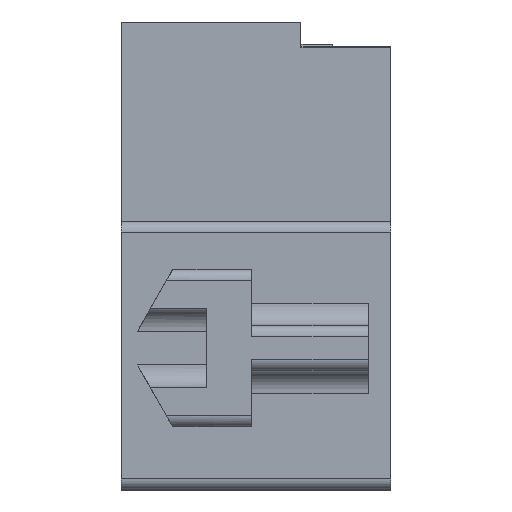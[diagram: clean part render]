
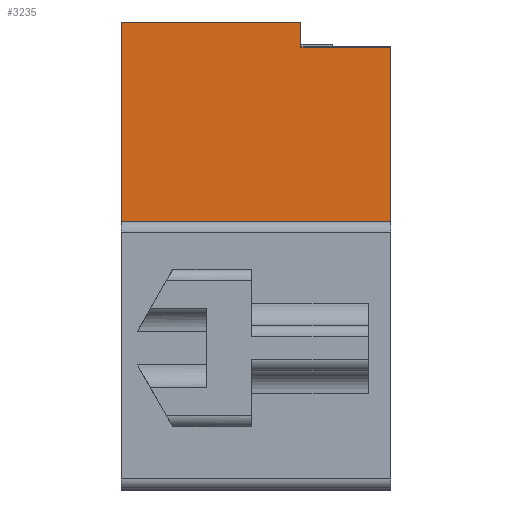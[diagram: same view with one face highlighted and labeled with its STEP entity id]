
A CAD part, left-side view. The second image highlights one B-rep face of the part: STEP entity #3235.
In plain terms, the highlighted planar face has unit normal (-0.314, 0, 0.95).
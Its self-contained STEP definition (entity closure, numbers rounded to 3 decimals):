
#17 = ORIENTED_EDGE ( 'NONE', *, *, #2132, .F. ) ;
#20 = EDGE_CURVE ( 'NONE', #2819, #1436, #4389, .T. ) ;
#269 = DIRECTION ( 'NONE',  ( -0.95, 0., -0.314 ) ) ;
#296 = VERTEX_POINT ( 'NONE', #1491 ) ;
#536 = EDGE_CURVE ( 'NONE', #296, #978, #543, .T. ) ;
#543 = LINE ( 'NONE', #4174, #2897 ) ;
#571 = LINE ( 'NONE', #1297, #4033 ) ;
#680 = CARTESIAN_POINT ( 'NONE',  ( -5., 12., 0. ) ) ;
#770 = LINE ( 'NONE', #921, #2805 ) ;
#921 = CARTESIAN_POINT ( 'NONE',  ( -5., 12., 0. ) ) ;
#978 = VERTEX_POINT ( 'NONE', #4374 ) ;
#1297 = CARTESIAN_POINT ( 'NONE',  ( -8.407, 4., -1.125 ) ) ;
#1311 = VECTOR ( 'NONE', #1920, 1000. ) ;
#1346 = EDGE_CURVE ( 'NONE', #2759, #1436, #2623, .T. ) ;
#1436 = VERTEX_POINT ( 'NONE', #3830 ) ;
#1491 = CARTESIAN_POINT ( 'NONE',  ( -5.076, 4., -0.025 ) ) ;
#1509 = EDGE_LOOP ( 'NONE', ( #17, #3487, #4141, #4010, #3787, #3065 ) ) ;
#1596 = DIRECTION ( 'NONE',  ( 0., -1., 0. ) ) ;
#1719 = DIRECTION ( 'NONE',  ( 0.95, 0., 0.314 ) ) ;
#1777 = FACE_OUTER_BOUND ( 'NONE', #1509, .T. ) ;
#1920 = DIRECTION ( 'NONE',  ( -0.95, 0., -0.314 ) ) ;
#1995 = CARTESIAN_POINT ( 'NONE',  ( -31.907, 12., -8.887 ) ) ;
#2132 = EDGE_CURVE ( 'NONE', #296, #2831, #4040, .T. ) ;
#2388 = DIRECTION ( 'NONE',  ( -0.314, 0., 0.95 ) ) ;
#2603 = EDGE_CURVE ( 'NONE', #2759, #2831, #571, .T. ) ;
#2619 = DIRECTION ( 'NONE',  ( -0.95, 0., -0.314 ) ) ;
#2623 = LINE ( 'NONE', #4429, #2996 ) ;
#2759 = VERTEX_POINT ( 'NONE', #3144 ) ;
#2762 = DIRECTION ( 'NONE',  ( 0., 1., 0. ) ) ;
#2805 = VECTOR ( 'NONE', #2619, 1000. ) ;
#2819 = VERTEX_POINT ( 'NONE', #3834 ) ;
#2831 = VERTEX_POINT ( 'NONE', #3852 ) ;
#2897 = VECTOR ( 'NONE', #2762, 1000. ) ;
#2996 = VECTOR ( 'NONE', #269, 1000. ) ;
#3065 = ORIENTED_EDGE ( 'NONE', *, *, #2603, .T. ) ;
#3144 = CARTESIAN_POINT ( 'NONE',  ( -8.407, 0., -1.125 ) ) ;
#3235 = ADVANCED_FACE ( 'NONE', ( #1777 ), #3814, .T. ) ;
#3295 = CARTESIAN_POINT ( 'NONE',  ( -5., 4., 0. ) ) ;
#3487 = ORIENTED_EDGE ( 'NONE', *, *, #536, .T. ) ;
#3787 = ORIENTED_EDGE ( 'NONE', *, *, #1346, .F. ) ;
#3814 = PLANE ( 'NONE',  #4325 ) ;
#3830 = CARTESIAN_POINT ( 'NONE',  ( -31.907, 0., -8.887 ) ) ;
#3834 = CARTESIAN_POINT ( 'NONE',  ( -31.907, 12., -8.887 ) ) ;
#3852 = CARTESIAN_POINT ( 'NONE',  ( -8.407, 4., -1.125 ) ) ;
#4010 = ORIENTED_EDGE ( 'NONE', *, *, #20, .T. ) ;
#4027 = DIRECTION ( 'NONE',  ( 0., 1., 0. ) ) ;
#4033 = VECTOR ( 'NONE', #4027, 1000. ) ;
#4040 = LINE ( 'NONE', #3295, #1311 ) ;
#4141 = ORIENTED_EDGE ( 'NONE', *, *, #4311, .T. ) ;
#4174 = CARTESIAN_POINT ( 'NONE',  ( -5.076, 12., -0.025 ) ) ;
#4311 = EDGE_CURVE ( 'NONE', #978, #2819, #770, .T. ) ;
#4325 = AXIS2_PLACEMENT_3D ( 'NONE', #680, #2388, #1719 ) ;
#4374 = CARTESIAN_POINT ( 'NONE',  ( -5.076, 12., -0.025 ) ) ;
#4389 = LINE ( 'NONE', #1995, #4445 ) ;
#4429 = CARTESIAN_POINT ( 'NONE',  ( -5., 0., 0. ) ) ;
#4445 = VECTOR ( 'NONE', #1596, 1000. ) ;
